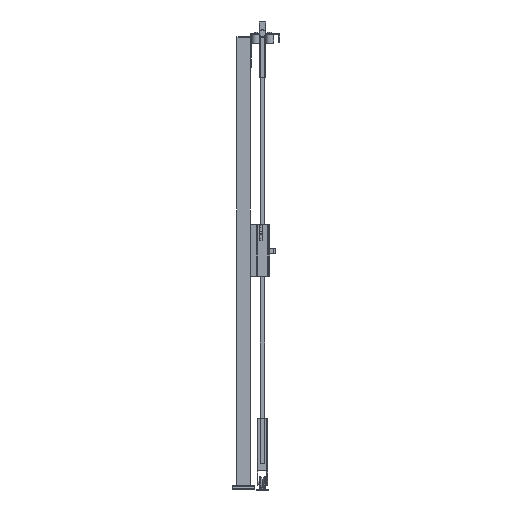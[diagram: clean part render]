
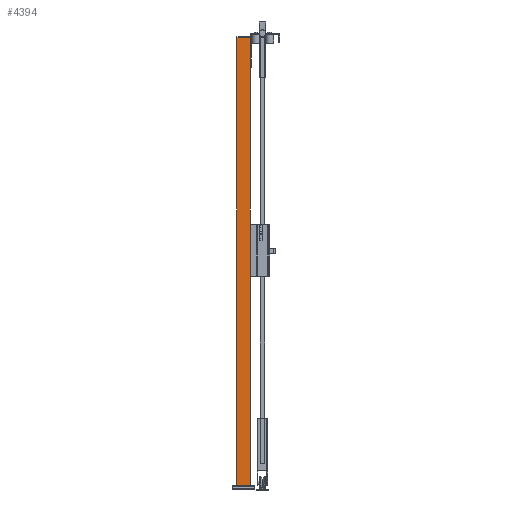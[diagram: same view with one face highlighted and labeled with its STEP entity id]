
A CAD part, left-side view. The second image highlights one B-rep face of the part: STEP entity #4394.
In plain terms, the highlighted planar face has unit normal (-1, 0, 0) as drawn and (0, 1, 0) by its records, which use the part's own axes.
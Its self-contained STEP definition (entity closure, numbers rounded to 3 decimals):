
#549=FACE_OUTER_BOUND('',#865,.T.);
#865=EDGE_LOOP('',(#2784,#2785,#2786,#2787));
#1222=VERTEX_POINT('',#9323);
#1223=VERTEX_POINT('',#9325);
#1225=VERTEX_POINT('',#9331);
#1228=VERTEX_POINT('',#9336);
#1842=EDGE_CURVE('',#1222,#1223,#5180,.T.);
#1848=EDGE_CURVE('',#1228,#1225,#5186,.T.);
#1851=EDGE_CURVE('',#1223,#1228,#5189,.T.);
#1852=EDGE_CURVE('',#1222,#1225,#5190,.T.);
#2784=ORIENTED_EDGE('',*,*,#1852,.T.);
#2785=ORIENTED_EDGE('',*,*,#1848,.F.);
#2786=ORIENTED_EDGE('',*,*,#1851,.F.);
#2787=ORIENTED_EDGE('',*,*,#1842,.F.);
#4124=PLANE('',#6578);
#4394=ADVANCED_FACE('',(#549),#4124,.F.);
#5180=LINE('',#9326,#5931);
#5186=LINE('',#9338,#5937);
#5189=LINE('',#9343,#5940);
#5190=LINE('',#9345,#5941);
#5931=VECTOR('',#7336,1.);
#5937=VECTOR('',#7344,1.);
#5940=VECTOR('',#7351,1.);
#5941=VECTOR('',#7354,1.);
#6578=AXIS2_PLACEMENT_3D('',#9344,#7352,#7353);
#7336=DIRECTION('',(-1.,0.,0.));
#7344=DIRECTION('',(1.,0.,0.));
#7351=DIRECTION('',(0.,0.,-1.));
#7352=DIRECTION('center_axis',(0.,-1.,0.));
#7353=DIRECTION('ref_axis',(0.,0.,-1.));
#7354=DIRECTION('',(0.,0.,-1.));
#9323=CARTESIAN_POINT('',(30.,30.,2020.));
#9325=CARTESIAN_POINT('',(-30.,30.,2020.));
#9326=CARTESIAN_POINT('',(0.,30.,2020.));
#9331=CARTESIAN_POINT('',(30.,30.,20.));
#9336=CARTESIAN_POINT('',(-30.,30.,20.));
#9338=CARTESIAN_POINT('',(0.,30.,20.));
#9343=CARTESIAN_POINT('',(-30.,30.,1020.));
#9344=CARTESIAN_POINT('Origin',(0.,30.,
1020.));
#9345=CARTESIAN_POINT('',(30.,30.,1020.));
